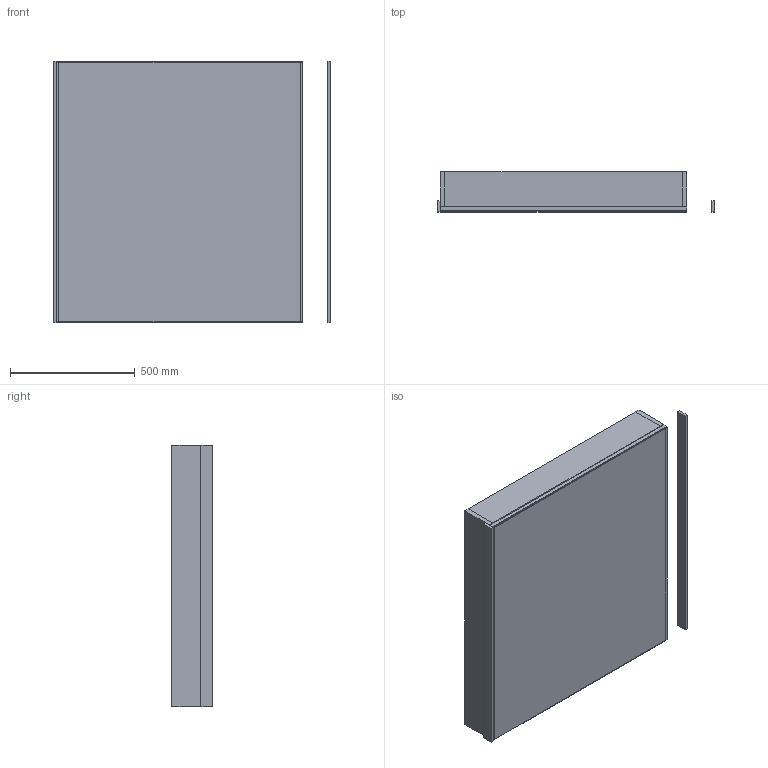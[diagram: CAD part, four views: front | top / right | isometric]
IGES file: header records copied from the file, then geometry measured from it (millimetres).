
Start section: Data from Parasolid IGES Translator 19.0.9, Copyright(c) 2006 Siemens PL M Software. All Rights Reserved.
Global section: file name: noorth-mirror-H 105 D 4,5-16 W 99_9159.igs; native system: By Siemens PLM Incorporated; preprocessor: XPlus GENERIC/IGES 19.0.9; author: Noname; organization: Noname; date: 20200519.114129; units: metre
Bounding box: 1113.82 x 162 x 1050 mm (x, y, z)
Volume: 35065998.4 mm3; surface area: 7753459.7 mm2
Topology: 10 solids, 10 shells, 84 faces, 168 edges, 104 vertices
Faces by surface type: plane 84
